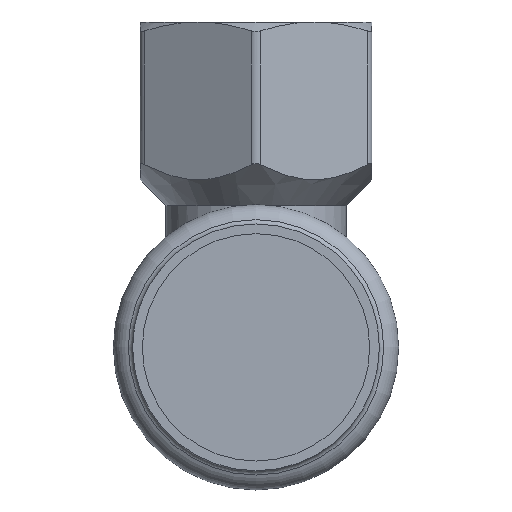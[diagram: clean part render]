
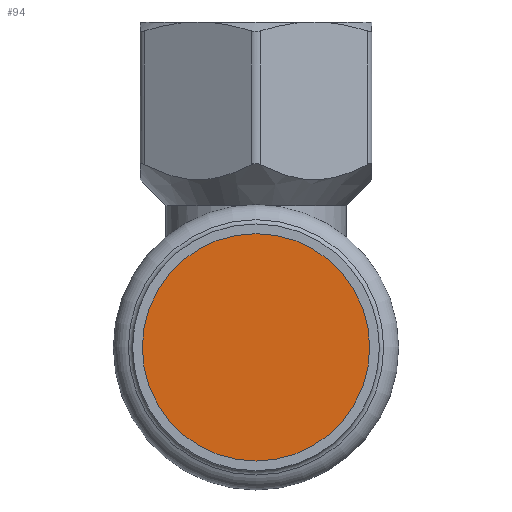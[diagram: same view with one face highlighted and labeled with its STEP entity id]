
A CAD part, front view. The second image highlights one B-rep face of the part: STEP entity #94.
In plain terms, the highlighted planar face has unit normal (0, -1, 0).
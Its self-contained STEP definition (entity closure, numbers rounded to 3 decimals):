
#94=ADVANCED_FACE('',(#429),#431,.T.);
#429=FACE_BOUND('',#430,.T.);
#430=EDGE_LOOP('',(#589));
#431=PLANE('',#432);
#432=AXIS2_PLACEMENT_3D('',#433,#434,#435);
#433=CARTESIAN_POINT('',(0.,-48.743,0.));
#434=DIRECTION('',(0.,-1.,0.));
#435=DIRECTION('',(0.,0.,-1.));
#589=ORIENTED_EDGE('',*,*,#663,.T.);
#663=EDGE_CURVE('',#791,#791,#792,.F.);
#791=VERTEX_POINT('',#2404);
#792=CIRCLE('',#2405,17.65);
#2404=CARTESIAN_POINT('',(0.,-48.743,17.65));
#2405=AXIS2_PLACEMENT_3D('',#2406,#2407,#2408);
#2406=CARTESIAN_POINT('',(0.,-48.743,0.));
#2407=DIRECTION('',(0.,1.,0.));
#2408=DIRECTION('',(0.,0.,1.));
